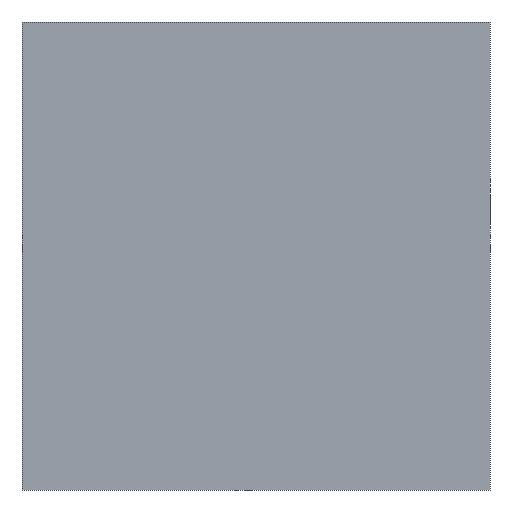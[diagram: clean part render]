
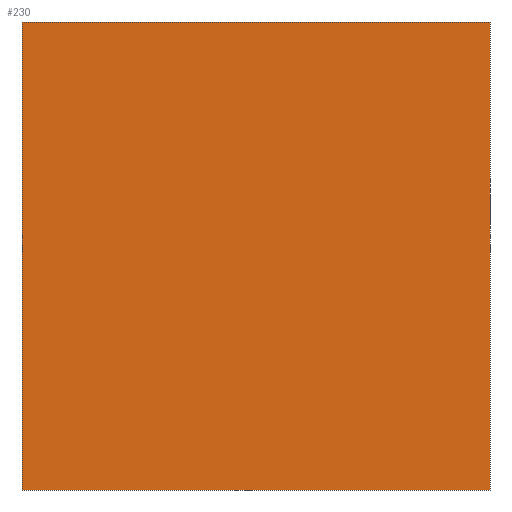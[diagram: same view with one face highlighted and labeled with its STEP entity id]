
A CAD part, front view. The second image highlights one B-rep face of the part: STEP entity #230.
In plain terms, the highlighted planar face has unit normal (0, -1, 0).
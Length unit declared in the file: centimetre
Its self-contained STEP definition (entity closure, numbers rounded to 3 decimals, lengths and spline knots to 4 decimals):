
#1 = CARTESIAN_POINT ( 'NONE',  ( 1000., 0., 1000. ) ) ;
#2 = VERTEX_POINT ( 'NONE', #189 ) ;
#7 = ORIENTED_EDGE ( 'NONE', *, *, #207, .F. ) ;
#36 = VECTOR ( 'NONE', #239, 100. ) ;
#54 = LINE ( 'NONE', #444, #227 ) ;
#64 = DIRECTION ( 'NONE',  ( 0., 0., -1. ) ) ;
#89 = VERTEX_POINT ( 'NONE', #161 ) ;
#90 = LINE ( 'NONE', #375, #104 ) ;
#104 = VECTOR ( 'NONE', #64, 100. ) ;
#111 = EDGE_CURVE ( 'NONE', #89, #2, #54, .T. ) ;
#151 = CARTESIAN_POINT ( 'NONE',  ( 0., 0., 1000. ) ) ;
#158 = CARTESIAN_POINT ( 'NONE',  ( 0., 0., 1000. ) ) ;
#161 = CARTESIAN_POINT ( 'NONE',  ( 0., 0., 0. ) ) ;
#171 = DIRECTION ( 'NONE',  ( 0., 0., 1. ) ) ;
#172 = ORIENTED_EDGE ( 'NONE', *, *, #188, .T. ) ;
#184 = ORIENTED_EDGE ( 'NONE', *, *, #111, .T. ) ;
#188 = EDGE_CURVE ( 'NONE', #426, #89, #339, .T. ) ;
#189 = CARTESIAN_POINT ( 'NONE',  ( 1000., 0., 0. ) ) ;
#190 = DIRECTION ( 'NONE',  ( 1., 0., 0. ) ) ;
#207 = EDGE_CURVE ( 'NONE', #363, #2, #90, .T. ) ;
#227 = VECTOR ( 'NONE', #190, 100. ) ;
#230 = ADVANCED_FACE ( 'NONE', ( #440 ), #268, .F. ) ;
#231 = CARTESIAN_POINT ( 'NONE',  ( 0., 0., 1000. ) ) ;
#239 = DIRECTION ( 'NONE',  ( 1., 0., 0. ) ) ;
#243 = LINE ( 'NONE', #349, #36 ) ;
#250 = VECTOR ( 'NONE', #397, 100. ) ;
#268 = PLANE ( 'NONE',  #329 ) ;
#305 = EDGE_CURVE ( 'NONE', #426, #363, #243, .T. ) ;
#329 = AXIS2_PLACEMENT_3D ( 'NONE', #231, #417, #171 ) ;
#339 = LINE ( 'NONE', #158, #250 ) ;
#349 = CARTESIAN_POINT ( 'NONE',  ( 0., 0., 1000. ) ) ;
#363 = VERTEX_POINT ( 'NONE', #1 ) ;
#375 = CARTESIAN_POINT ( 'NONE',  ( 1000., 0., 1000. ) ) ;
#392 = EDGE_LOOP ( 'NONE', ( #184, #7, #419, #172 ) ) ;
#397 = DIRECTION ( 'NONE',  ( 0., 0., -1. ) ) ;
#417 = DIRECTION ( 'NONE',  ( 0., 1., 0. ) ) ;
#419 = ORIENTED_EDGE ( 'NONE', *, *, #305, .F. ) ;
#426 = VERTEX_POINT ( 'NONE', #151 ) ;
#440 = FACE_OUTER_BOUND ( 'NONE', #392, .T. ) ;
#444 = CARTESIAN_POINT ( 'NONE',  ( 0., 0., 0. ) ) ;
